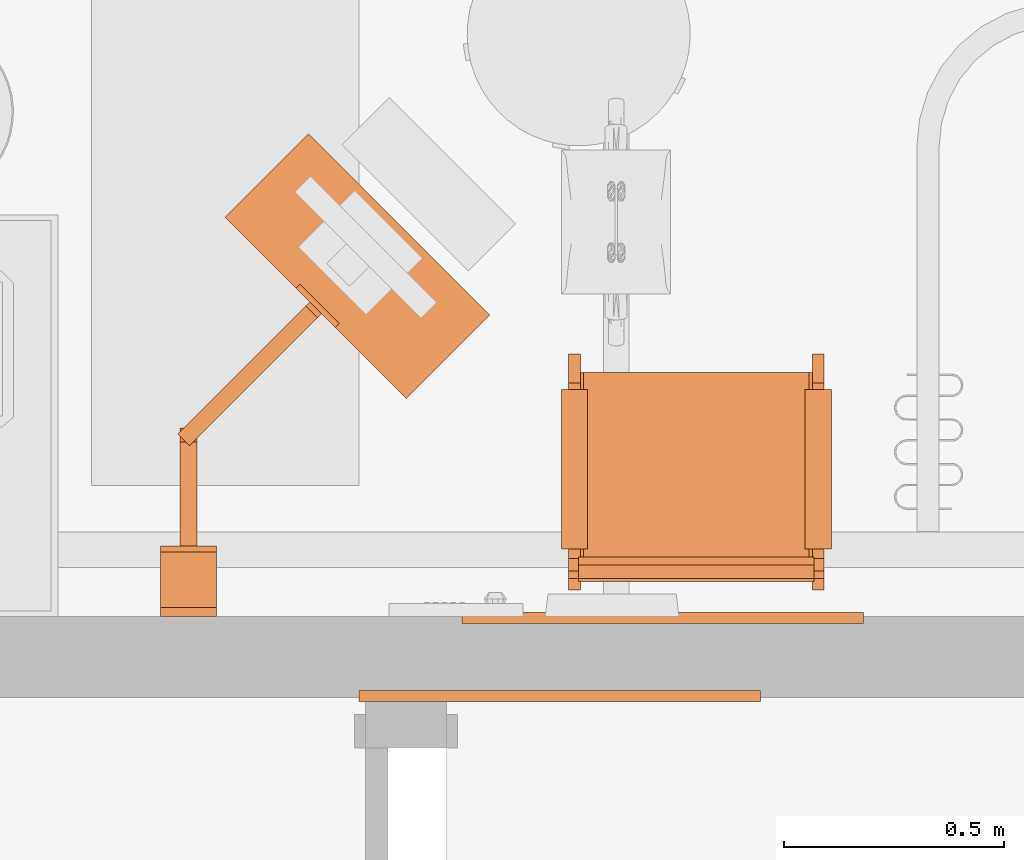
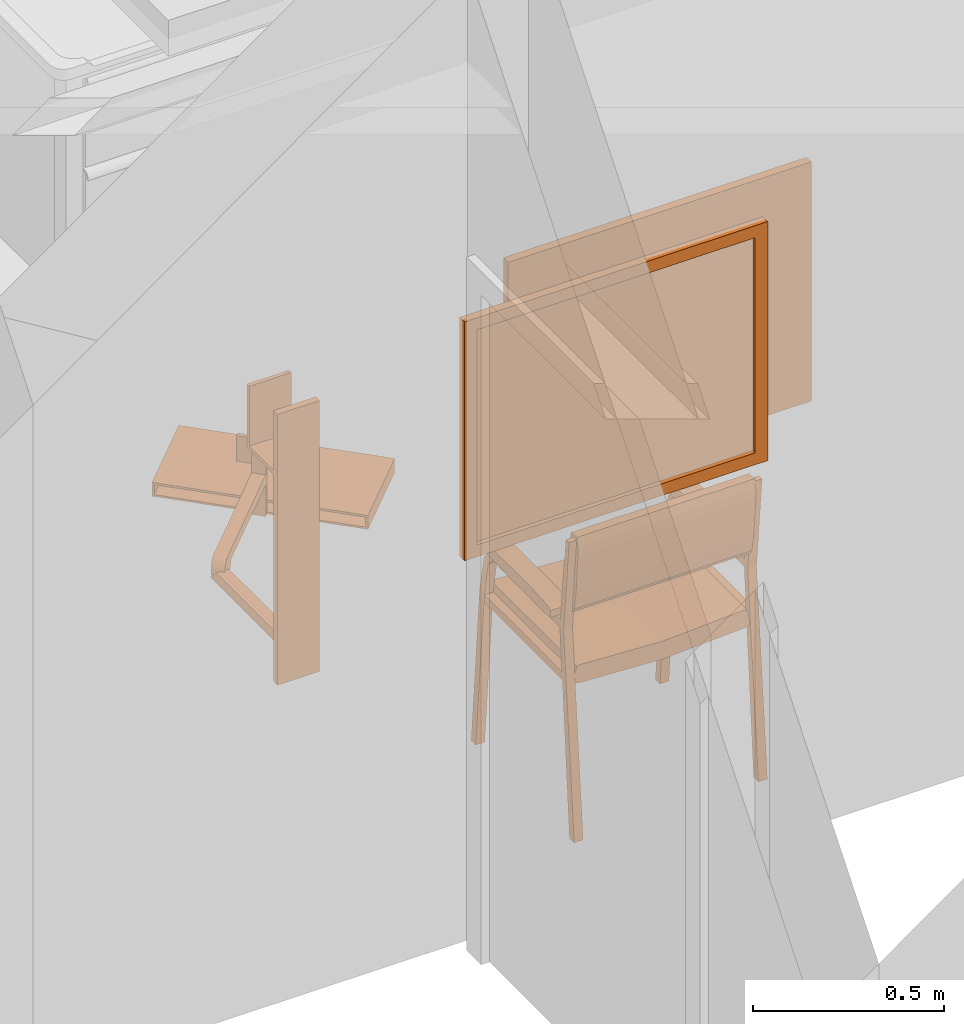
# One storey, part 40 of 142: 4 proxies.
"""IFC2X3 building model written with IfcOpenShell, lengths in feet."""

from ifc_helpers import new_model, entity, si_unit, converted_unit, derived_unit, direction, frame, frame_2d, origin, origin_2d_with_axis, place, context, subcontext, project, spatial, polyline, circle_curve, parameter, trimmed, segment, composite_curve, rectangle, circle, outline, extrude, source, transform, mapped, type_object, type_shapes, element, save


model = new_model("IFC2X3")

# Units and contexts
model_context = context("Model", 3, precision=0.0001, world=origin(), true_north=direction((6.12303176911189e-17, 1.0)))
body_context = subcontext(model_context, "Body", "Model", "MODEL_VIEW")
ifc_project = project(units=[converted_unit("LENGTHUNIT", "FOOT", entity("IfcRatioMeasure", 0.3048), si_unit("LENGTHUNIT", "METRE"), dimensions=[1, 0, 0, 0, 0, 0, 0]), converted_unit("AREAUNIT", "SQUARE FOOT", entity("IfcRatioMeasure", 0.09290304), si_unit("AREAUNIT", "SQUARE_METRE"), dimensions=[2, 0, 0, 0, 0, 0, 0]), converted_unit("VOLUMEUNIT", "CUBIC FOOT", entity("IfcRatioMeasure", 0.028316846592), si_unit("VOLUMEUNIT", "CUBIC_METRE"), dimensions=[3, 0, 0, 0, 0, 0, 0]), converted_unit("PLANEANGLEUNIT", "DEGREE", entity("IfcRatioMeasure", 0.0174532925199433), si_unit("PLANEANGLEUNIT", "RADIAN"), dimensions=[0, 0, 0, 0, 0, 0, 0]), si_unit("MASSUNIT", "GRAM", prefix="KILO"), derived_unit("MASSDENSITYUNIT", [(si_unit("MASSUNIT", "GRAM", prefix="KILO"), 1), (si_unit("LENGTHUNIT", "METRE"), -3)]), si_unit("TIMEUNIT", "SECOND"), si_unit("FREQUENCYUNIT", "HERTZ"), si_unit("THERMODYNAMICTEMPERATUREUNIT", "DEGREE_CELSIUS"), derived_unit("THERMALTRANSMITTANCEUNIT", [(si_unit("MASSUNIT", "GRAM", prefix="KILO"), 1), (si_unit("THERMODYNAMICTEMPERATUREUNIT", "KELVIN"), -1), (si_unit("TIMEUNIT", "SECOND"), -3)]), derived_unit("VOLUMETRICFLOWRATEUNIT", [(si_unit("LENGTHUNIT", "METRE"), 3), (si_unit("TIMEUNIT", "SECOND"), -1)]), si_unit("ELECTRICCURRENTUNIT", "AMPERE"), si_unit("ELECTRICVOLTAGEUNIT", "VOLT"), si_unit("POWERUNIT", "WATT"), si_unit("FORCEUNIT", "NEWTON"), si_unit("ILLUMINANCEUNIT", "LUX"), si_unit("LUMINOUSFLUXUNIT", "LUMEN"), si_unit("LUMINOUSINTENSITYUNIT", "CANDELA"), derived_unit("USERDEFINED", [(si_unit("MASSUNIT", "GRAM", prefix="KILO"), -1), (si_unit("LENGTHUNIT", "METRE"), -2), (si_unit("TIMEUNIT", "SECOND"), 3), (si_unit("LUMINOUSFLUXUNIT", "LUMEN"), 1)]), derived_unit("LINEARVELOCITYUNIT", [(si_unit("LENGTHUNIT", "METRE"), 1), (si_unit("TIMEUNIT", "SECOND"), -1)]), si_unit("PRESSUREUNIT", "PASCAL"), derived_unit("USERDEFINED", [(si_unit("LENGTHUNIT", "METRE"), -2), (si_unit("MASSUNIT", "GRAM", prefix="KILO"), 1), (si_unit("TIMEUNIT", "SECOND"), -2)])], contexts=[model_context])

# Site, building, storey
site_placement = place(None, origin())
site = spatial("IfcSite", under=ifc_project, at=site_placement, Name="Default", CompositionType="ELEMENT")
building_placement = place(site_placement, origin())
building = spatial("IfcBuilding", under=site, at=building_placement, Name="OUTPATIENT / PACT CLINIC (Ch. 265)", CompositionType="ELEMENT")
storey_placement = place(building_placement, origin())
storey = spatial("IfcBuildingStorey", under=building, at=storey_placement, Name="LEVEL 1", CompositionType="ELEMENT", Elevation=0.0)

# Proxies
building_element_proxy_type_1 = type_object("IfcBuildingElementProxyType", Name="F3025 - Board, Bulletin, Wood Framed", PredefinedType="NOTDEFINED")
shared_shape_1 = source(origin(), body_context, "Body", "SweptSolid", [
    extrude(rectangle(XDim=0.0416666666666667, YDim=2.74999999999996, at=origin_2d_with_axis()), frame((0.0, -0.020833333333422, 0.124999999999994), z_axis=(0.0, 0.0, 1.0), x_axis=(0.0, 1.0, 0.0)), (0.0, 0.0, 1.0), 2.25000000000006),
    extrude(outline(polyline([(-1.49999999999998, -1.25), (1.49999999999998, -1.25), (1.49999999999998, 1.25), (-1.49999999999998, 1.25), (-1.49999999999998, -1.25)]), holes=[polyline([(-1.37499999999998, -1.125), (-1.37499999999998, 1.12500000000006), (1.37499999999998, 1.12500000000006), (1.37499999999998, -1.125), (-1.37499999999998, -1.125)])]), frame((0.0, -0.0833333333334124, 1.25), z_axis=(0.0, 1.0, 0.0), x_axis=(-1.0, 0.0, 0.0)), (0.0, 0.0, 1.0), 0.0833333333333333),
])
type_shapes(building_element_proxy_type_1, [shared_shape_1])
proxy_1_placement = place(storey_placement, frame((441.004568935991, -904.180935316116, 4.0)))
element("IfcBuildingElementProxy", 1, at=proxy_1_placement, inside=storey, type_object=building_element_proxy_type_1, Name="F3025 - Board, Bulletin, Wood Framed:F3025 - Board, Bulletin, Wood Framed", ObjectType="F3025 - Board, Bulletin, Wood Framed", context=body_context, shape_type="MappedRepresentation", body=[
    mapped(shared_shape_1, transform((0.0, 0.0, 0.0), scale=1.0)),
])
proxy_2_placement = place(storey_placement, frame((441.773085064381, -903.680935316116, 4.0), z_axis=(0.0, 0.0, 1.0), x_axis=(-1.0, 0.0, 0.0)))
element("IfcBuildingElementProxy", 2, at=proxy_2_placement, inside=storey, type_object=building_element_proxy_type_1, Name="F3025 - Board, Bulletin, Wood Framed:F3025 - Board, Bulletin, Wood Framed", ObjectType="F3025 - Board, Bulletin, Wood Framed", context=body_context, shape_type="MappedRepresentation", body=[
    mapped(shared_shape_1, transform((0.0, 0.0, 0.0), scale=1.0)),
])

# Space
space_placement = place(storey_placement, origin())
space = spatial("IfcSpace", under=storey, at=space_placement, Name="EXPA1", CompositionType="ELEMENT", InteriorOrExteriorSpace="INTERNAL")

# Proxies
building_element_proxy_type_2 = type_object("IfcBuildingElementProxyType", Name="M1803 - Workstation, Computer, Wall Mounted", PredefinedType="NOTDEFINED")
shared_shape_2 = source(origin(), body_context, "Body", "SweptSolid", [
    extrude(circle(Radius=0.104166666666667, at=frame_2d((1.0547118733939e-15, 3.336446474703e-16), x_axis=(1.0, 0.0))), frame((-0.0810226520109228, -1.34888430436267, 0.333333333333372), z_axis=(0.707106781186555, -0.70710678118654, 0.0), x_axis=(0.0, 0.0, 1.0)), (0.0, 0.0, 1.0), 0.125000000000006),
    extrude(outline(composite_curve([segment(polyline([(0.0520833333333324, -0.592708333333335), (0.0520833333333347, 0.644791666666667)]), True, "CONTINUOUS"), segment(polyline([(0.0520833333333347, 0.644791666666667), (-0.0520833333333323, 0.644791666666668)]), True, "CONTINUOUS"), segment(polyline([(-0.0520833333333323, 0.644791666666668), (-0.0520833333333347, -0.696875)]), True, "CONTINUOUS"), segment(trimmed(circle_curve(frame_2d((0.0520833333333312, -0.696875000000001), x_axis=(1.0, 0.0)), 0.104166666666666), [parameter(89.9999999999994)], [parameter(180.0)], True, "PARAMETER"), False, "CONTINUOUS")], self_intersect=False)), frame((-0.0624999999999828, -0.711458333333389, 0.281250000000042), z_axis=(-1.0, 0.0, 0.0), x_axis=(0.0, 0.0, 1.0)), (0.0, 0.0, -1.0), 0.125000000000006),
    extrude(outline(composite_curve([segment(polyline([(0.0520833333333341, -0.651041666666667), (0.0520833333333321, 0.598958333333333)]), True, "CONTINUOUS"), segment(polyline([(0.0520833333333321, 0.598958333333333), (-0.0520833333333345, 0.598958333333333)]), True, "CONTINUOUS"), segment(polyline([(-0.0520833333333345, 0.598958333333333), (-0.0520833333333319, -0.546875)]), True, "CONTINUOUS"), segment(trimmed(circle_curve(frame_2d((-0.0520833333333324, -0.651041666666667), x_axis=(1.0, 0.0)), 0.104166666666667), [parameter(1.01777749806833e-13)], [parameter(90.0000000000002)], True, "PARAMETER"), False, "CONTINUOUS")], self_intersect=False)), frame((-0.452990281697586, -1.89762862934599, 0.385416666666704), z_axis=(0.707106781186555, -0.70710678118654, 0.0), x_axis=(0.0, 0.0, 1.0)), (0.0, 0.0, -1.0), 0.125000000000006),
    extrude(outline(polyline([(-0.0729166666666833, -0.95833333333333), (0.0729166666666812, -0.95833333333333), (0.0729166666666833, 0.95833333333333), (-0.0729166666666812, 0.95833333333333), (-0.0729166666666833, -0.95833333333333)]), holes=[polyline([(-0.05208333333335, -0.937499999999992), (-0.052083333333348, 0.937499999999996), (0.0520833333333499, 0.937499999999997), (0.0520833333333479, -0.937499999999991), (-0.05208333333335, -0.937499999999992)])]), frame((-1.5747857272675, -2.93103572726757, 0.0729166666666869), z_axis=(0.707106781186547, 0.707106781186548, 0.0), x_axis=(0.0, 0.0, -1.0)), (0.0, 0.0, 1.0), 0.883333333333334),
    extrude(rectangle(XDim=0.0666666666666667, YDim=0.416666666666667, at=origin_2d_with_axis()), frame((0.0, -0.0333333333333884, 0.0), z_axis=(0.0, 0.0, 1.0), x_axis=(0.0, 1.0, 0.0)), (0.0, 0.0, 1.0), 0.11949518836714),
    extrude(outline(polyline([(-0.208333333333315, -0.0270833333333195), (-0.0625000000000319, -0.0270833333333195), (-0.0625000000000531, 0.014583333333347), (0.0625000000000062, 0.014583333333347), (0.0625000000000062, -0.0270833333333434), (0.208333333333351, -0.0270833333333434), (0.208333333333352, 0.0395833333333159), (-0.208333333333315, 0.0395833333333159), (-0.208333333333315, -0.0270833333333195)])), frame((0.0, -0.0395833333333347, 0.119495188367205)), (0.0, 0.0, 1.0), 2.0471714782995),
    extrude(outline(polyline([(-0.194444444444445, 0.125), (0.430555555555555, 0.125), (0.430555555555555, 0.166666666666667), (-0.236111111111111, 0.166666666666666), (-0.236111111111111, -0.291666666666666), (-0.194444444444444, -0.291666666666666), (-0.194444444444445, 0.125)])), frame((-0.208333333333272, -0.358333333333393, 2.40277777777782), z_axis=(1.0, 0.0, 0.0), x_axis=(0.0, 0.0, 1.0)), (0.0, 0.0, 1.0), 0.416666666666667),
    extrude(rectangle(XDim=0.0416666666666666, YDim=0.416666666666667, at=frame_2d((4.16333634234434e-17, -5.55111512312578e-17), x_axis=(1.0, 0.0))), frame((-0.964906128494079, -2.3211561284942, 0.503601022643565), z_axis=(0.0, 0.0, 1.0), x_axis=(0.707106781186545, 0.70710678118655, 0.0)), (0.0, 0.0, 1.0), 0.267232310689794),
    extrude(rectangle(XDim=0.125000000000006, YDim=0.0416666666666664, at=frame_2d((-1.94289029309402e-16, 1.16226472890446e-16), x_axis=(1.0, 0.0))), frame((-0.935443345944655, -2.29169334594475, 0.0), z_axis=(0.0, 0.0, 1.0), x_axis=(-0.707106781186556, 0.70710678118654, 0.0)), (0.0, 0.0, 1.0), 0.666666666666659),
    extrude(rectangle(XDim=0.0666666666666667, YDim=0.416666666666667, at=origin_2d_with_axis()), frame((0.0, -0.0333333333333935, 2.16666666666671), z_axis=(0.0, 0.0, 1.0), x_axis=(0.0, 1.0, 0.0)), (0.0, 0.0, 1.0), 0.666666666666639),
])
type_shapes(building_element_proxy_type_2, [shared_shape_2])
proxy_3_placement = place(space_placement, frame((438.228934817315, -903.628851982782, 2.83333333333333), z_axis=(0.0, 0.0, 1.0), x_axis=(-1.0, 0.0, 0.0)))
element("IfcBuildingElementProxy", 3, at=proxy_3_placement, inside=space, type_object=building_element_proxy_type_2, Name="M1803 - Workstation, Computer, Wall Mounted1:M1803 - Workstation, Computer, Wall Mounted", ObjectType="M1803 - Workstation, Computer, Wall Mounted", context=body_context, shape_type="MappedRepresentation", body=[
    mapped(shared_shape_2, transform((0.0, 0.0, 0.0), scale=1.0)),
])
building_element_proxy_type_3 = type_object("IfcBuildingElementProxyType", Name="F0205 - Chair, Side With Arms", PredefinedType="NOTDEFINED")
shared_shape_3 = source(origin(), body_context, "Body", "SweptSolid", [
    extrude(outline(polyline([(-0.104007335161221, -0.374369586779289), (-0.027711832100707, -0.374369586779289), (-0.0197350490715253, -0.338348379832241), (0.00592434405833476, -0.182113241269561), (0.0162560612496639, -0.135457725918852), (0.0457826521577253, -0.00212284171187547), (0.0856087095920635, 0.177721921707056), (0.112798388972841, 0.276572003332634), (0.120257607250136, 0.307674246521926), (0.129202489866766, 0.415216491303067), (0.045581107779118, 0.433734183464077), (0.0167028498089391, 0.395704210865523), (-0.0364083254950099, 0.222671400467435), (-0.125070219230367, -0.177704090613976), (-0.13682888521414, -0.27538652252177), (-0.128352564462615, -0.36942248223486), (-0.104007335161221, -0.374369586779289)])), frame((-0.891159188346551, -0.878769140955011, 2.73061112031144), z_axis=(0.0, 1.0, 0.0), x_axis=(0.991475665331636, 0.0, -0.130291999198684)), (0.0, 0.0, 1.0), 1.75919993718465),
    extrude(outline(polyline([(0.0907668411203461, -0.842703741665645), (0.261538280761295, -0.842703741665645), (0.265730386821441, -0.773999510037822), (0.127479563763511, 0.0287496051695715), (-0.0923338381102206, 0.813085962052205), (-0.125373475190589, 0.873420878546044), (-0.279635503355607, 0.800086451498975), (-0.270660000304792, 0.752608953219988), (-0.0560029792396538, -0.0126173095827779), (0.0784907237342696, -0.795927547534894), (0.0907668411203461, -0.842703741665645)])), frame((-0.90556950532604, 0.000822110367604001, 1.62079321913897), z_axis=(1.0, 0.0, 0.0), x_axis=(0.0, -0.219936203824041, -0.975514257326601)), (0.0, 0.0, 1.0), 1.47211210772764),
    extrude(outline(polyline([(-0.552031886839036, -0.234422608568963), (-0.484734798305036, -0.234422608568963), (-0.233837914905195, -0.160903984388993), (0.324339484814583, 0.0422559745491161), (0.453697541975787, 0.101150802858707), (0.564536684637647, 0.176717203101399), (0.51204038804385, 0.250193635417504), (0.420212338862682, 0.216770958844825), (0.254858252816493, 0.145732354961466), (-0.246233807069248, -0.0366502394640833), (-0.436544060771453, -0.0986810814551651), (-0.576302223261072, -0.167740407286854), (-0.552031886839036, -0.234422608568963)])), frame((-0.1510824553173, -1.00916916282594, 2.22827697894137), z_axis=(0.0, 1.0, 0.0), x_axis=(0.939692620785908, 0.0, 0.34202014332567)), (0.0, 0.0, 1.0), 0.198199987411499),
    extrude(outline(polyline([(-0.525375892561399, -0.221085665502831), (-0.458078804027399, -0.221085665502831), (-0.207181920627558, -0.147567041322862), (0.350995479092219, 0.0555929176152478), (0.480353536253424, 0.114487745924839), (0.591192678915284, 0.190054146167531), (0.551062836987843, 0.246221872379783), (0.114629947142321, 0.0873732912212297), (0.281514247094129, 0.159069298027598), (-0.219577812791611, -0.0233132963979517), (-0.409888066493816, -0.0853441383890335), (-0.549646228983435, -0.154403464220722), (-0.525375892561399, -0.221085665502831)])), frame((-0.180692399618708, 0.814330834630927, 2.23169271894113), z_axis=(0.0, 1.0, 0.0), x_axis=(0.939692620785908, 0.0, 0.34202014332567)), (0.0, 0.0, 1.0), 0.196499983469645),
    extrude(outline(polyline([(0.0166377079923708, -0.666422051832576), (0.099971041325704, -0.666422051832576), (-0.0172324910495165, 0.673220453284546), (-0.0993762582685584, 0.659623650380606), (0.0166377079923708, -0.666422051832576)])), frame((-0.182442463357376, -0.954369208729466, 1.61480726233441), z_axis=(0.0, 1.0, 0.0), x_axis=(0.0871557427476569, 0.0, -0.996194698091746)), (0.0, 0.0, 1.0), 0.0833333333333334),
    extrude(outline(polyline([(0.0166377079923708, -0.666422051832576), (0.099971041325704, -0.666422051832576), (-0.0172324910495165, 0.673220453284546), (-0.0993762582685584, 0.659623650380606), (0.0166377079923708, -0.666422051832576)])), frame((-0.182442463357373, 0.867430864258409, 1.61480726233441), z_axis=(0.0, 1.0, 0.0), x_axis=(0.0871557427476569, 0.0, -0.996194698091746)), (0.0, 0.0, 1.0), 0.0833333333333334),
    extrude(outline(polyline([(0.811855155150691, -1.61770011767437), (0.895188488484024, -1.61770011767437), (0.71143329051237, 0.489199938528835), (0.806416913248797, 1.46713632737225), (0.751033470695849, 1.46713632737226), (0.656855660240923, 0.571094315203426), (-0.516612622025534, 0.571094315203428), (-0.653571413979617, 0.441277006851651), (-0.728375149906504, 0.0391907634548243), (-0.871611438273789, -1.61770011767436), (-0.791571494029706, -1.61770011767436), (-0.646611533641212, 0.0391998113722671), (-0.578172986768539, 0.407071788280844), (-0.496044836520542, 0.48919993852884), (0.649788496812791, 0.489199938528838), (0.811855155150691, -1.61770011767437)])), frame((-0.163768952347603, -0.954369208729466, 1.61770011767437), z_axis=(0.0, 1.0, 0.0), x_axis=(-1.0, 0.0, 0.0)), (0.0, 0.0, 1.0), 0.0885709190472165),
    extrude(outline(polyline([(0.811855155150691, -1.61770011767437), (0.895188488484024, -1.61770011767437), (0.71143329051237, 0.489199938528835), (0.806416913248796, 1.46713632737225), (0.751033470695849, 1.46713632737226), (0.656855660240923, 0.571094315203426), (-0.516612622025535, 0.571094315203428), (-0.653571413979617, 0.441277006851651), (-0.728375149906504, 0.0391907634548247), (-0.871611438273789, -1.61770011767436), (-0.791571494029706, -1.61770011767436), (-0.646611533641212, 0.0391998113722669), (-0.578172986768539, 0.407071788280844), (-0.496044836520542, 0.48919993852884), (0.649788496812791, 0.489199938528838), (0.811855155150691, -1.61770011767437)])), frame((-0.1637689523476, 0.867430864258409, 1.61770011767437), z_axis=(0.0, 1.0, 0.0), x_axis=(-1.0, 0.0, 0.0)), (0.0, 0.0, 1.0), 0.0885709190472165),
])
type_shapes(building_element_proxy_type_3, [shared_shape_3])
proxy_4_placement = place(space_placement, frame((442.025809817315, -902.373643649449, 0.0), z_axis=(0.0, 0.0, 1.0), x_axis=(0.0, 1.0, 0.0)))
element("IfcBuildingElementProxy", 4, at=proxy_4_placement, inside=space, type_object=building_element_proxy_type_3, Name="F0205 - Chair, Side With Arms:F0205 - Chair, Side With Arms", ObjectType="F0205 - Chair, Side With Arms", context=body_context, shape_type="MappedRepresentation", body=[
    mapped(shared_shape_3, transform((0.0, 0.0, 0.0), scale=1.0)),
])

save(model, "model.ifc")
